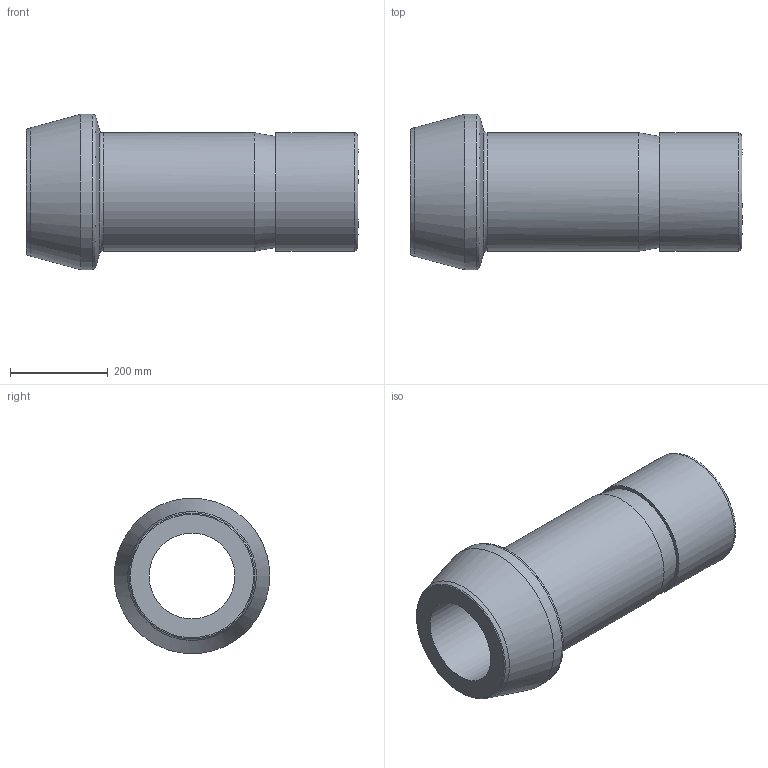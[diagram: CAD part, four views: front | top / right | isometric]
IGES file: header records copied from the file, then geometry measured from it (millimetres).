
Global section: file name: SPC-6; native system: Autodesk Inventor 2016; preprocessor: unknown; author: DESIGNPC2; date: 20151219.131413; units: millimetre
Bounding box: 678.16 x 317.5 x 317.48 mm (x, y, z)
Volume: 17998950.3 mm3; surface area: 991066 mm2
Topology: 1 solids, 1 shells, 15 faces, 50 edges, 37 vertices
Faces by surface type: bspline 15
